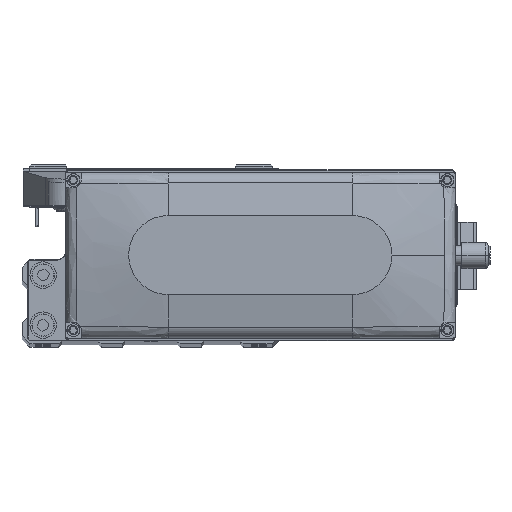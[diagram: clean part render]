
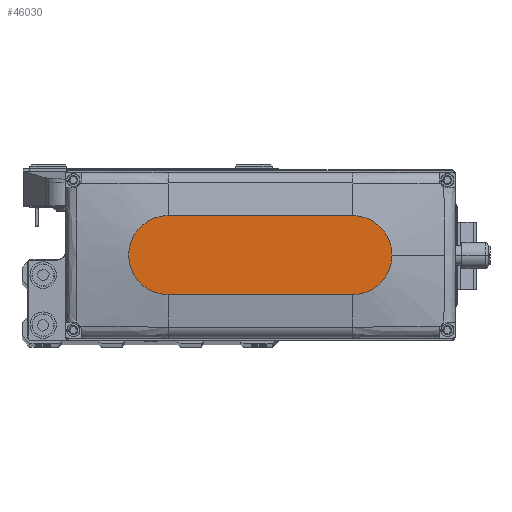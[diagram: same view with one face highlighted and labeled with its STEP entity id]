
A CAD part, top view. The second image highlights one B-rep face of the part: STEP entity #46030.
In plain terms, the highlighted planar face has unit normal (0, 0, 1).
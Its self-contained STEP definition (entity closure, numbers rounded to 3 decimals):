
#51 = AXIS2_PLACEMENT_3D ( 'NONE', #6827, #21259, #35722 ) ;
#812 = VERTEX_POINT ( 'NONE', #42296 ) ;
#1448 = VERTEX_POINT ( 'NONE', #17630 ) ;
#2463 = DIRECTION ( 'NONE',  ( 1., 0., 0. ) ) ;
#3097 = CARTESIAN_POINT ( 'NONE',  ( -35., -15., 35. ) ) ;
#5947 = AXIS2_PLACEMENT_3D ( 'NONE', #9949, #24369, #38824 ) ;
#6436 = ORIENTED_EDGE ( 'NONE', *, *, #21659, .T. ) ;
#6827 = CARTESIAN_POINT ( 'NONE',  ( 35., 0., 35. ) ) ;
#7786 = CARTESIAN_POINT ( 'NONE',  ( -35., 15., 35. ) ) ;
#9949 = CARTESIAN_POINT ( 'NONE',  ( 0., 0., 35. ) ) ;
#11141 = DIRECTION ( 'NONE',  ( 1., 0., 0. ) ) ;
#14925 = VERTEX_POINT ( 'NONE', #31729 ) ;
#15177 = VERTEX_POINT ( 'NONE', #41114 ) ;
#15894 = ORIENTED_EDGE ( 'NONE', *, *, #38658, .T. ) ;
#17552 = DIRECTION ( 'NONE',  ( 1., 0., 0. ) ) ;
#17630 = CARTESIAN_POINT ( 'NONE',  ( -35., 15., 35. ) ) ;
#18072 = CIRCLE ( 'NONE', #44560, 15. ) ;
#20463 = CIRCLE ( 'NONE', #51, 15. ) ;
#20464 = CARTESIAN_POINT ( 'NONE',  ( -35., 0., 35. ) ) ;
#21158 = EDGE_CURVE ( 'NONE', #24217, #812, #18072, .T. ) ;
#21259 = DIRECTION ( 'NONE',  ( 0., 0., 1. ) ) ;
#21659 = EDGE_CURVE ( 'NONE', #812, #1448, #40249, .T. ) ;
#22206 = DIRECTION ( 'NONE',  ( -1., 0., 0. ) ) ;
#22573 = AXIS2_PLACEMENT_3D ( 'NONE', #20464, #34943, #2463 ) ;
#24059 = VECTOR ( 'NONE', #17552, 1000. ) ;
#24217 = VERTEX_POINT ( 'NONE', #30326 ) ;
#24369 = DIRECTION ( 'NONE',  ( 0., 0., 1. ) ) ;
#27922 = FACE_OUTER_BOUND ( 'NONE', #41194, .T. ) ;
#29027 = EDGE_CURVE ( 'NONE', #1448, #15177, #43028, .T. ) ;
#29127 = CARTESIAN_POINT ( 'NONE',  ( 35., 0., 35. ) ) ;
#29145 = ORIENTED_EDGE ( 'NONE', *, *, #29027, .T. ) ;
#30051 = ORIENTED_EDGE ( 'NONE', *, *, #21158, .T. ) ;
#30326 = CARTESIAN_POINT ( 'NONE',  ( 50., 0., 35. ) ) ;
#31729 = CARTESIAN_POINT ( 'NONE',  ( 35., -15., 35. ) ) ;
#34943 = DIRECTION ( 'NONE',  ( 0., 0., 1. ) ) ;
#35558 = LINE ( 'NONE', #3097, #24059 ) ;
#35722 = DIRECTION ( 'NONE',  ( 1., 0., 0. ) ) ;
#38019 = ORIENTED_EDGE ( 'NONE', *, *, #45630, .T. ) ;
#38658 = EDGE_CURVE ( 'NONE', #14925, #24217, #20463, .T. ) ;
#38824 = DIRECTION ( 'NONE',  ( 1., 0., 0. ) ) ;
#40249 = LINE ( 'NONE', #7786, #46026 ) ;
#41114 = CARTESIAN_POINT ( 'NONE',  ( -35., -15., 35. ) ) ;
#41194 = EDGE_LOOP ( 'NONE', ( #6436, #29145, #38019, #15894, #30051 ) ) ;
#42296 = CARTESIAN_POINT ( 'NONE',  ( 35., 15., 35. ) ) ;
#42394 = PLANE ( 'NONE',  #5947 ) ;
#43028 = CIRCLE ( 'NONE', #22573, 15. ) ;
#43589 = DIRECTION ( 'NONE',  ( 0., 0., 1. ) ) ;
#44560 = AXIS2_PLACEMENT_3D ( 'NONE', #29127, #43589, #11141 ) ;
#45630 = EDGE_CURVE ( 'NONE', #15177, #14925, #35558, .T. ) ;
#46026 = VECTOR ( 'NONE', #22206, 1000. ) ;
#46030 = ADVANCED_FACE ( 'NONE', ( #27922 ), #42394, .T. ) ;
